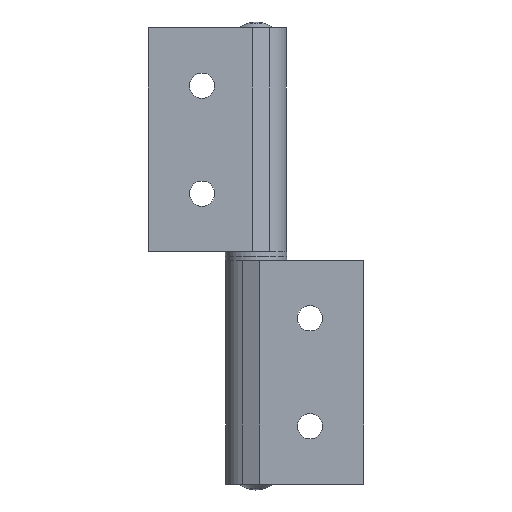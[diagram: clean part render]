
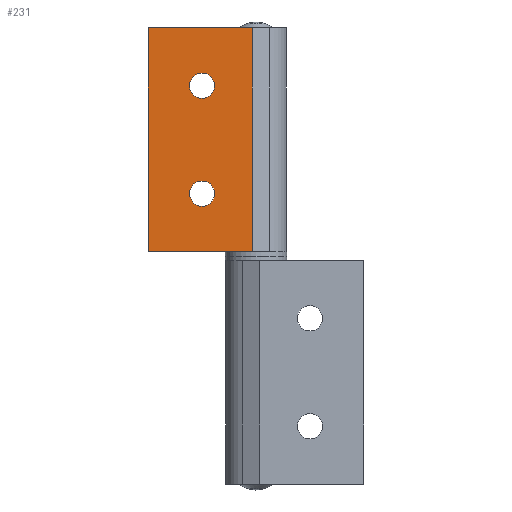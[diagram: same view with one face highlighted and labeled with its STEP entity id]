
A CAD part, front view. The second image highlights one B-rep face of the part: STEP entity #231.
In plain terms, the highlighted planar face has unit normal (0, -1, 0).
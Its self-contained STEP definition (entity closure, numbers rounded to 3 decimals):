
#231=ADVANCED_FACE('',(#452,#453,#454),#455,.T.);
#452=FACE_OUTER_BOUND('',#713,.T.);
#453=FACE_BOUND('',#714,.T.);
#454=FACE_BOUND('',#715,.T.);
#455=PLANE('',#716);
#713=EDGE_LOOP('',(#1113,#1114,#1115,#1116));
#714=EDGE_LOOP('',(#1117,#1118));
#715=EDGE_LOOP('',(#1119,#1120));
#716=AXIS2_PLACEMENT_3D('',#1121,#1122,#1123);
#1113=ORIENTED_EDGE('',*,*,#1533,.T.);
#1114=ORIENTED_EDGE('',*,*,#1488,.T.);
#1115=ORIENTED_EDGE('',*,*,#1395,.T.);
#1116=ORIENTED_EDGE('',*,*,#1534,.T.);
#1117=ORIENTED_EDGE('',*,*,#1535,.T.);
#1118=ORIENTED_EDGE('',*,*,#1428,.T.);
#1119=ORIENTED_EDGE('',*,*,#1454,.T.);
#1120=ORIENTED_EDGE('',*,*,#1461,.T.);
#1121=CARTESIAN_POINT('',(0.0,17.718,4.8));
#1122=DIRECTION('',(0.0,-1.0,0.0));
#1123=DIRECTION('',(0.0,0.0,-1.0));
#1395=EDGE_CURVE('',#1624,#1621,#1625,.T.);
#1428=EDGE_CURVE('',#1679,#1676,#1680,.T.);
#1454=EDGE_CURVE('',#1717,#1722,#1724,.T.);
#1461=EDGE_CURVE('',#1722,#1717,#1735,.T.);
#1488=EDGE_CURVE('',#1775,#1624,#1777,.T.);
#1533=EDGE_CURVE('',#1837,#1775,#1838,.T.);
#1534=EDGE_CURVE('',#1621,#1837,#1839,.T.);
#1535=EDGE_CURVE('',#1676,#1679,#1840,.T.);
#1621=VERTEX_POINT('',#1938);
#1624=VERTEX_POINT('',#1942);
#1625=LINE('',#1943,#1944);
#1676=VERTEX_POINT('',#2006);
#1679=VERTEX_POINT('',#2010);
#1680=CIRCLE('',#2011,3.5);
#1717=VERTEX_POINT('',#2058);
#1722=VERTEX_POINT('',#2064);
#1724=CIRCLE('',#2067,3.5);
#1735=CIRCLE('',#2080,3.5);
#1775=VERTEX_POINT('',#2131);
#1777=LINE('',#2134,#2135);
#1837=VERTEX_POINT('',#2207);
#1838=LINE('',#2208,#2209);
#1839=LINE('',#2210,#2211);
#1840=CIRCLE('',#2212,3.5);
#1938=CARTESIAN_POINT('',(0.0,17.718,67.1));
#1942=CARTESIAN_POINT('',(29.,17.718,67.1));
#1943=CARTESIAN_POINT('',(29.,17.718,67.1));
#1944=VECTOR('',#2325,1000.0);
#2006=CARTESIAN_POINT('',(18.5,17.718,20.95));
#2010=CARTESIAN_POINT('',(11.5,17.718,20.95));
#2011=AXIS2_PLACEMENT_3D('',#2377,#2378,#2379);
#2058=CARTESIAN_POINT('',(18.5,17.718,50.95));
#2064=CARTESIAN_POINT('',(11.5,17.718,50.95));
#2067=AXIS2_PLACEMENT_3D('',#2413,#2414,#2415);
#2080=AXIS2_PLACEMENT_3D('',#2424,#2425,#2426);
#2131=CARTESIAN_POINT('',(29.,17.718,4.8));
#2134=CARTESIAN_POINT('',(29.,17.718,4.8));
#2135=VECTOR('',#2460,1000.0);
#2207=CARTESIAN_POINT('',(0.0,17.718,4.8));
#2208=CARTESIAN_POINT('',(0.0,17.718,4.8));
#2209=VECTOR('',#2521,1000.0);
#2210=CARTESIAN_POINT('',(0.0,17.718,67.1));
#2211=VECTOR('',#2522,1000.0);
#2212=AXIS2_PLACEMENT_3D('',#2523,#2524,#2525);
#2325=DIRECTION('',(-1.0,0.0,0.0));
#2377=CARTESIAN_POINT('',(15.,17.718,20.95));
#2378=DIRECTION('',(-0.0,1.0,0.0));
#2379=DIRECTION('',(1.0,0.0,0.));
#2413=CARTESIAN_POINT('',(15.,17.718,50.95));
#2414=DIRECTION('',(-0.0,1.0,0.0));
#2415=DIRECTION('',(1.0,0.0,0.));
#2424=CARTESIAN_POINT('',(15.,17.718,50.95));
#2425=DIRECTION('',(-0.0,1.0,0.0));
#2426=DIRECTION('',(1.0,0.0,0.));
#2460=DIRECTION('',(0.0,0.0,1.0));
#2521=DIRECTION('',(1.0,0.0,0.0));
#2522=DIRECTION('',(0.0,0.0,-1.0));
#2523=CARTESIAN_POINT('',(15.,17.718,20.95));
#2524=DIRECTION('',(-0.0,1.0,0.0));
#2525=DIRECTION('',(1.0,0.0,0.));
